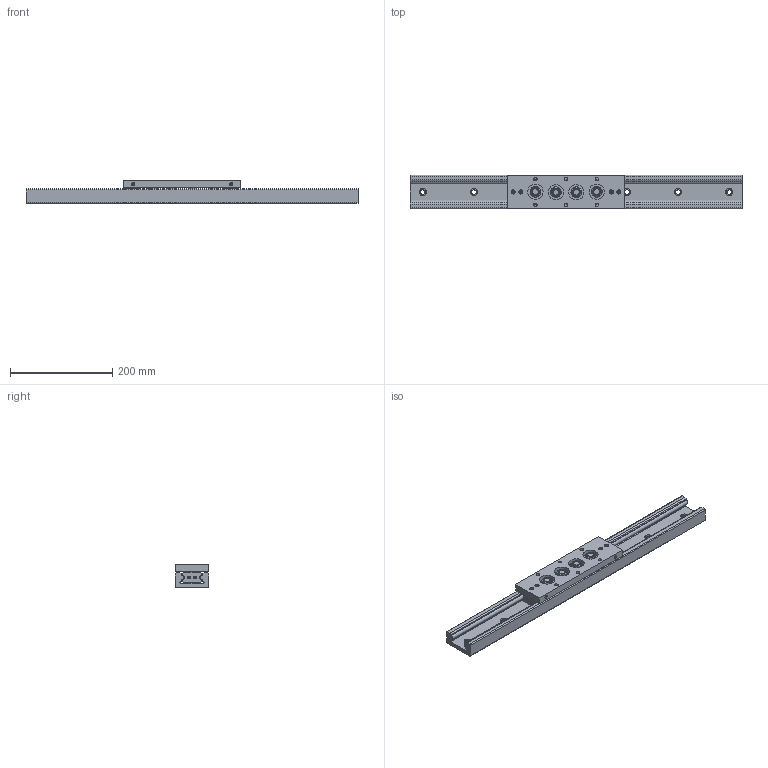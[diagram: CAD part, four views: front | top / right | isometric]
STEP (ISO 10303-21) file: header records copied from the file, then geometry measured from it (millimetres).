
FILE_DESCRIPTION((''),'2;1');
FILE_NAME('C:\Documents and Settings\土屋\My Documents\土屋移動用フォルダ\製品 (図面3D用)\お客様用\LSIJ6545.stp','2019-04-16T13:27:19',('y'),(''),'Autodesk Inventor 11','Autodesk Inventor 11','');
FILE_SCHEMA(('AUTOMOTIVE_DESIGN { 1 0 10303 214 1 1 1 1 }'));
Length unit declared in the file: millimetre
Products named in the file (3): LSIJ6545; LSI6545レール; LSIJ6545キャリッジ(1)
Assembly tree (2 placements, depth 2):
  LSIJ6545
    LSI6545レール
    LSIJ6545キャリッジ(1)
Bounding box: 650 x 65 x 45 mm (x, y, z)
Volume: 968226.8 mm3; surface area: 232629.2 mm2
Topology: 8 solids, 8 shells, 471 faces, 1167 edges, 771 vertices
Faces by surface type: plane 256, bspline 139, cylinder 60, cone 16
Full cylindrical faces by diameter (mm): 6 x2, 7 x2, 8 x2, 12 x4, 18 x4, 21 x4, 30 x4, 35 x8
Entity records: 14262 total; most frequent: CARTESIAN_POINT 3969, ORIENTED_EDGE 2112, DIRECTION 1838, EDGE_CURVE 1056, VECTOR 756, LINE 756, VERTEX_POINT 752, EDGE_LOOP 648
